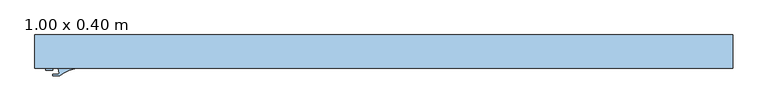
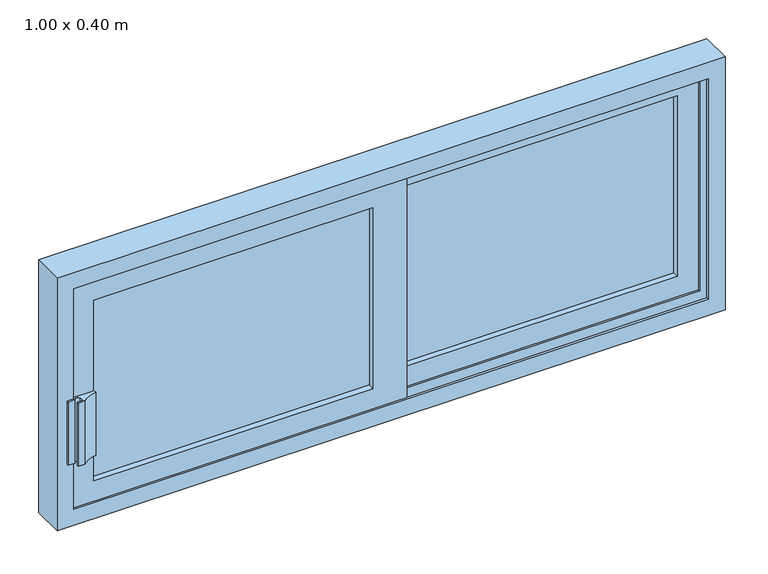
"""IFC4 building model written with IfcOpenShell, lengths in millimetres: window geometry, VENTANA CORREDIZA : 1.00 x 0.40 m."""

from ifc_helpers import new_model, si_unit, point, frame, frame_2d, origin, place, context, project, spatial, polyline, circle_curve, trimmed, segment, composite_curve, outline, extrude, faceted_brep, source, transform, mapped, element, save


def window_1_00_x_0_40_m_51c43401(model_context):
    return source(origin(), model_context, "Body", "SolidModel", [
        extrude(outline(composite_curve([segment(polyline([(-449.2272646, -20.574), (-442.85, -20.574), (-442.85, -24.7651198)]), True, "CONTINUOUS"), segment(trimmed(circle_curve(frame_2d((-438.2823751, -63.5716105)), 39.0743767), [point((-442.85, -24.7651198))], [point((-464.7180432, -34.7972753))], True, "CARTESIAN"), True, "CONTINUOUS"), segment(polyline([(-464.7180432, -34.7972753), (-474.6272646, -34.7972753), (-474.6272646, -32.4379931), (-465.7349695, -32.4379931)]), True, "CONTINUOUS"), segment(trimmed(circle_curve(frame_2d((-475.2431169, -30.0990589)), 9.7916026), [point((-465.7349695, -32.4379931))], [point((-466.6910659, -25.3306309))], True, "CARTESIAN"), True, "CONTINUOUS"), segment(trimmed(circle_curve(frame_2d((-470.4187065, -27.4090781)), 4.2679324), [point((-466.6910659, -25.3306309))], [point((-473.7529788, -24.7448943))], True, "CARTESIAN"), True, "CONTINUOUS"), segment(polyline([(-473.7529788, -24.7448943), (-474.6272646, -24.7448943), (-474.6272646, -20.574), (-449.2272646, -20.574)]), True, "CONTINUOUS")], self_intersect=False)), frame((0.0, 0.0, 1800.0), z_axis=(0.0, 0.0, 1.0), x_axis=(1.0, 0.0, 0.0)), (0.0, 0.0, 1.0), 100.0),
        extrude(outline(polyline([(-474.6272646, -20.574), (-474.6272646, -26.5331774), (-484.6272646, -26.5331774), (-484.6272646, -20.574), (-474.6272646, -20.574)])), frame((0.0, 0.0, 1800.0), z_axis=(0.0, 0.0, 1.0), x_axis=(1.0, 0.0, 0.0)), (0.0, 0.0, 1.0), 100.0),
        extrude(outline(polyline([(-442.85, -11.049), (-442.85, -5.049), (-25.4, -5.049), (-25.4, -11.049), (-442.85, -11.049)])), frame((0.0, 0.0, 1757.15), z_axis=(0.0, 0.0, 1.0), x_axis=(1.0, 0.0, 0.0)), (0.0, 0.0, 1.0), 285.7),
        extrude(outline(polyline([(1706.35, -493.65), (1706.35, 25.4), (2093.65, 25.4), (2093.65, -493.65), (1706.35, -493.65)]), holes=[polyline([(2042.85, -442.85), (2042.85, -25.4), (1757.15, -25.4), (1757.15, -442.85), (2042.85, -442.85)])]), frame((0.0, -20.574, 0.0), z_axis=(0.0, 1.0, 0.0), x_axis=(0.0, 0.0, 1.0)), (0.0, 0.0, 1.0), 19.05),
        extrude(outline(polyline([(25.4, 11.049), (25.4, 17.049), (442.85, 17.049), (442.85, 11.049), (25.4, 11.049)])), frame((0.0, 0.0, 1757.15), z_axis=(0.0, 0.0, 1.0), x_axis=(1.0, 0.0, 0.0)), (0.0, 0.0, 1.0), 285.7),
        extrude(outline(polyline([(1706.35, -25.4), (1706.35, 493.65), (2093.65, 493.65), (2093.65, -25.4), (1706.35, -25.4)]), holes=[polyline([(2042.85, 25.4), (2042.85, 442.85), (1757.15, 442.85), (1757.15, 25.4), (2042.85, 25.4)])]), frame((0.0, 1.524, 0.0), z_axis=(0.0, 1.0, 0.0), x_axis=(0.0, 0.0, 1.0)), (0.0, 0.0, 1.0), 19.05),
        faceted_brep([(-500.0, -23.876, 2100.0), (-500.0, 23.876, 2100.0), (-500.0, 23.876, 1700.0), (-500.0, -23.876, 1700.0), (-474.6, 23.876, 2074.6), (-474.6, 20.574, 2074.6), (-474.6, 20.574, 1725.4), (-474.6, 23.876, 1725.4), (-493.65, 20.574, 2093.65), (-493.65, 1.524, 2093.65), (-493.65, 1.524, 1706.35), (-493.65, 20.574, 1706.35), (-474.6, 1.524, 2074.6), (-474.6, -1.524, 2074.6), (-474.6, -1.524, 1725.4), (-474.6, 1.524, 1725.4), (-493.65, -1.524, 2093.65), (-493.65, -20.574, 2093.65), (-493.65, -20.574, 1706.35), (-493.65, -1.524, 1706.35), (-474.6, -20.574, 2074.6), (-474.6, -23.876, 2074.6), (-474.6, -23.876, 1725.4), (-474.6, -20.574, 1725.4), (500.0, 23.876, 1700.0), (500.0, -23.876, 1700.0), (474.6, 20.574, 1725.4), (474.6, 23.876, 1725.4), (493.65, 1.524, 1706.35), (493.65, 20.574, 1706.35), (474.6, -1.524, 1725.4), (474.6, 1.524, 1725.4), (493.65, -20.574, 1706.35), (493.65, -1.524, 1706.35), (474.6, -23.876, 1725.4), (474.6, -20.574, 1725.4), (500.0, 23.876, 2100.0), (500.0, -23.876, 2100.0), (474.6, 20.574, 2074.6), (474.6, 23.876, 2074.6), (493.65, 1.524, 2093.65), (493.65, 20.574, 2093.65), (474.6, -1.524, 2074.6), (474.6, 1.524, 2074.6), (493.65, -20.574, 2093.65), (493.65, -1.524, 2093.65), (474.6, -23.876, 2074.6), (474.6, -20.574, 2074.6)], [[[0, 1, 2, 3]], [[4, 5, 6, 7]], [[8, 9, 10, 11]], [[12, 13, 14, 15]], [[16, 17, 18, 19]], [[20, 21, 22, 23]], [[3, 2, 24, 25]], [[7, 6, 26, 27]], [[11, 10, 28, 29]], [[15, 14, 30, 31]], [[19, 18, 32, 33]], [[23, 22, 34, 35]], [[25, 24, 36, 37]], [[27, 26, 38, 39]], [[29, 28, 40, 41]], [[31, 30, 42, 43]], [[33, 32, 44, 45]], [[35, 34, 46, 47]], [[3, 25, 37, 0], [21, 46, 34, 22]], [[37, 36, 1, 0]], [[1, 36, 24, 2], [7, 27, 39, 4]], [[39, 38, 5, 4]], [[11, 29, 41, 8], [5, 38, 26, 6]], [[41, 40, 9, 8]], [[9, 40, 28, 10], [15, 31, 43, 12]], [[43, 42, 13, 12]], [[19, 33, 45, 16], [13, 42, 30, 14]], [[45, 44, 17, 16]], [[17, 44, 32, 18], [23, 35, 47, 20]], [[47, 46, 21, 20]]]),
    ])


if __name__ == "__main__":
    model = new_model("IFC4")
    model_context = context("Model", 3, world=origin())
    ifc_project = project(units=[si_unit("LENGTHUNIT", "METRE", prefix="MILLI")], contexts=[model_context])
    site = spatial("IfcSite", under=ifc_project)
    building = spatial("IfcBuilding", under=site)
    placement = place(None, origin())
    window_1_00_x_0_40_m_shape = window_1_00_x_0_40_m_51c43401(model_context)
    element("IfcWindow", 1, ObjectType="VENTANA CORREDIZA : 1.00 x 0.40 m", at=placement, inside=building, context=model_context, shape_type="MappedRepresentation", body=[
        mapped(window_1_00_x_0_40_m_shape, transform((0.0, 0.0, 0.0), x_axis=(1.0, 0.0, 0.0), y_axis=(0.0, 1.0, 0.0), z_axis=(0.0, 0.0, 1.0))),
    ])
    save(model, "model.ifc")
